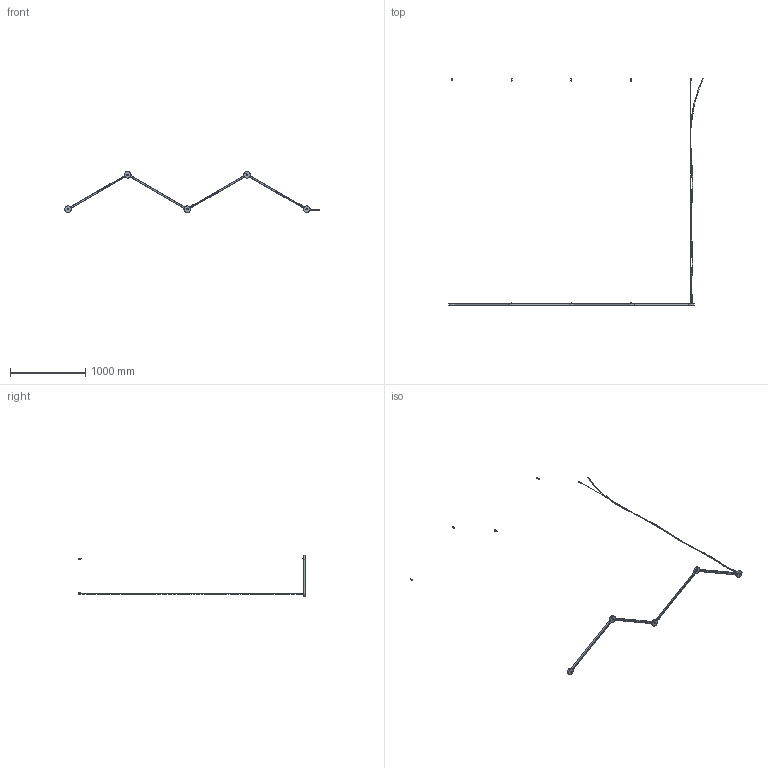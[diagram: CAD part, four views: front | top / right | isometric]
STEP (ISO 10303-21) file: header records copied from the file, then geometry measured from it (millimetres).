
FILE_DESCRIPTION (( 'STEP AP203' ), '1' );
FILE_NAME ('SPPOS0308XXXXXX-PER 3D.STEP', '2026-07-07T18:08:03', ( '' ), ( '' ), 'SwSTEP 2.0', 'SolidWorks 2026', '' );
FILE_SCHEMA (( 'CONFIG_CONTROL_DESIGN' ));
Length unit declared in the file: millimetre
Products named in the file (1): SPPOS0308XXXXXX-PER 3D
Bounding box: 3383.33 x 3012.21 x 547 mm (x, y, z)
Surface area: 516611.1 mm2 (no closed solid volume)
Topology: 0 solids, 97 shells, 231 faces, 2691 edges, 2494 vertices
Faces by surface type: plane 109, cylinder 107, cone 12, bspline 3
Entity records: 29497 total; most frequent: CARTESIAN_POINT 10870, DIRECTION 3615, ORIENTED_EDGE 2930, EDGE_CURVE 2691, VERTEX_POINT 2494, LINE 1467, VECTOR 1467, AXIS2_PLACEMENT_3D 1074
